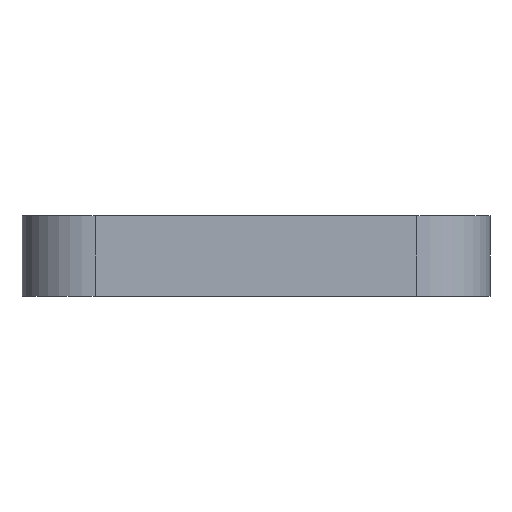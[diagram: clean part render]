
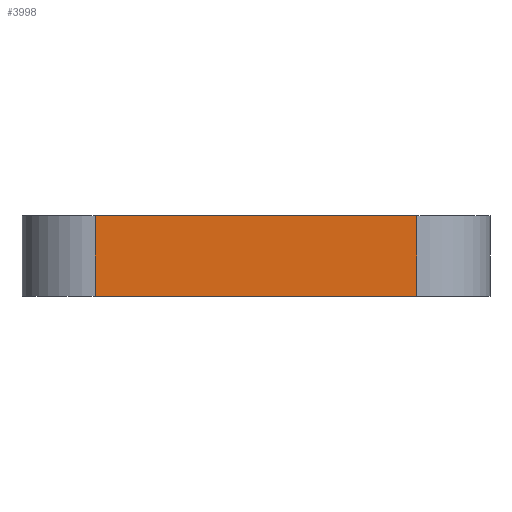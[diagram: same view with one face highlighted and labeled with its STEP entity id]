
A CAD part, left-side view. The second image highlights one B-rep face of the part: STEP entity #3998.
In plain terms, the highlighted planar face has unit normal (-1, 0, 0).
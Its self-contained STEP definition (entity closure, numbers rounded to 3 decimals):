
#365=FACE_OUTER_BOUND('',#609,.T.);
#609=EDGE_LOOP('',(#2923,#2924,#2925,#2926));
#861=LINE('',#5954,#1289);
#905=LINE('',#6083,#1333);
#912=LINE('',#6124,#1340);
#913=LINE('',#6126,#1341);
#1289=VECTOR('',#4749,10.);
#1333=VECTOR('',#4871,10.);
#1340=VECTOR('',#4914,10.);
#1341=VECTOR('',#4917,10.);
#1735=VERTEX_POINT('',#5951);
#1736=VERTEX_POINT('',#5953);
#1781=VERTEX_POINT('',#6080);
#1782=VERTEX_POINT('',#6082);
#2136=EDGE_CURVE('',#1736,#1735,#861,.F.);
#2201=EDGE_CURVE('',#1781,#1782,#905,.F.);
#2223=EDGE_CURVE('',#1736,#1781,#912,.T.);
#2224=EDGE_CURVE('',#1782,#1735,#913,.T.);
#2923=ORIENTED_EDGE('',*,*,#2223,.F.);
#2924=ORIENTED_EDGE('',*,*,#2136,.T.);
#2925=ORIENTED_EDGE('',*,*,#2224,.F.);
#2926=ORIENTED_EDGE('',*,*,#2201,.F.);
#3840=PLANE('',#4306);
#3998=ADVANCED_FACE('',(#365),#3840,.T.);
#4306=AXIS2_PLACEMENT_3D('',#6128,#4920,#4921);
#4749=DIRECTION('',(0.,-1.,0.));
#4871=DIRECTION('',(0.,-1.,0.));
#4914=DIRECTION('',(0.,0.,-1.));
#4917=DIRECTION('',(0.,0.,1.));
#4920=DIRECTION('center_axis',(-1.,0.,0.));
#4921=DIRECTION('ref_axis',(0.,1.,0.));
#5951=CARTESIAN_POINT('',(-88.,13.,-12.));
#5953=CARTESIAN_POINT('',(-88.,-75.,-12.));
#5954=CARTESIAN_POINT('',(-88.,-54.75,-12.));
#6080=CARTESIAN_POINT('',(-88.,-75.,-34.));
#6082=CARTESIAN_POINT('',(-88.,13.,-34.));
#6083=CARTESIAN_POINT('',(-88.,-54.75,-34.));
#6124=CARTESIAN_POINT('',(-88.,-75.,-12.));
#6126=CARTESIAN_POINT('',(-88.,13.,-12.));
#6128=CARTESIAN_POINT('Origin',(-88.,-82.,-12.));
